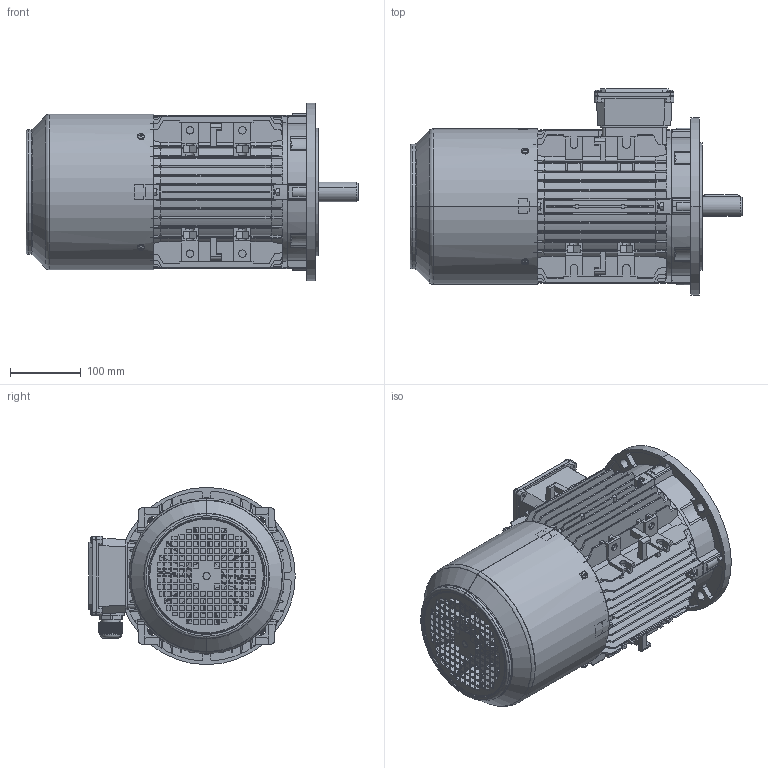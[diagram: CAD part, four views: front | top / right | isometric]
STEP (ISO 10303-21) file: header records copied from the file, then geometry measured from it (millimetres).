
FILE_DESCRIPTION (( 'STEP AP203' ), '1' );
FILE_NAME ('TB112 B5（风罩不带手柄孔）.STEP', '2021-10-25T06:24:09', ( '' ), ( '' ), 'SwSTEP 2.0', 'SolidWorks 2014', '' );
FILE_SCHEMA (( 'CONFIG_CONTROL_DESIGN' ));
Length unit declared in the file: millimetre
Products named in the file (14): T112儂褲; Hexagon socket head cap screws GB_GB_FASTENER_SCREWS_HSHCS M6X30-N; 112-132堤盄蹟杶; 112怢宒瑞珔; Plain parallel keys_GB_CONNECTING_PIECE_KEYS_CSK 8X50; TB112綴裔; MS132諉盄碟釱; Cross recessed thread forming screws GB_GB_CROSS_SCREWS_TYPE138 M5X12-N; TB112瑞欶(祥湍忒梟謂); TA112B5楊擘1; TB112蛌粣; MS132諉盄碟裔; Hexagon nuts grade C GB_GB_FASTENER_NUT_SNC1 M6-N; TB112 B5（风罩不带手柄孔）
Assembly tree (35 placements, depth 2):
  TB112 B5（风罩不带手柄孔）
    T112儂褲
    TB112綴裔
    TB112蛌粣
    112-132堤盄蹟杶  x2
    Cross recessed thread forming screws GB_GB_CROSS_SCREWS_TYPE138 M5X12-N  x8
    Hexagon nuts grade C GB_GB_FASTENER_NUT_SNC1 M6-N  x8
    Plain parallel keys_GB_CONNECTING_PIECE_KEYS_CSK 8X50
    TA112B5楊擘1
    Hexagon socket head cap screws GB_GB_FASTENER_SCREWS_HSHCS M6X30-N  x8
    MS132諉盄碟釱
    MS132諉盄碟裔
    112怢宒瑞珔
    TB112瑞欶(祥湍忒梟謂)
Bounding box: 468 x 291 x 250 mm (x, y, z)
Volume: 2499059.9 mm3; surface area: 1373482.9 mm2
Topology: 35 solids, 35 shells, 4091 faces, 11289 edges, 7364 vertices
Faces by surface type: plane 2666, cylinder 961, cone 262, torus 184, sphere 18
Entity records: 117074 total; most frequent: CARTESIAN_POINT 27754, ORIENTED_EDGE 19014, DIRECTION 17042, EDGE_CURVE 9507, LINE 6248, VECTOR 6248, VERTEX_POINT 6229, AXIS2_PLACEMENT_3D 5397
